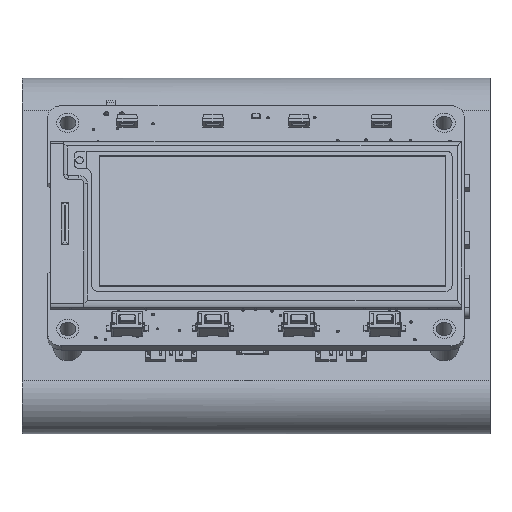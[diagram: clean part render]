
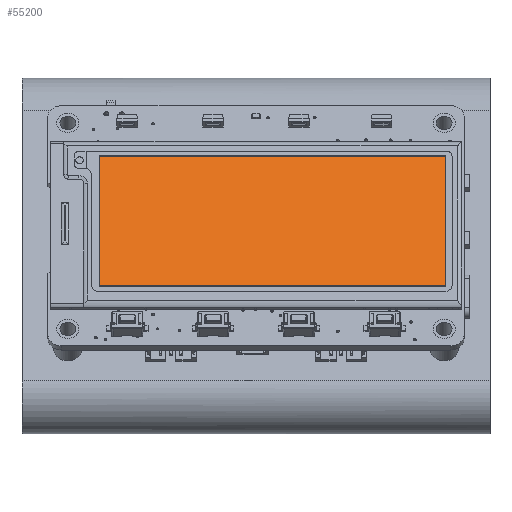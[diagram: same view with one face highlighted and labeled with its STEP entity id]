
A CAD part, left-side view. The second image highlights one B-rep face of the part: STEP entity #55200.
In plain terms, the highlighted planar face has unit normal (-0.866, 0, 0.5) as drawn and (0, 0, -1) by its records, which use the part's own axes.
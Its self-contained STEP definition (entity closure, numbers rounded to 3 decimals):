
#4783=PLANE('',#59918);
#7742=FACE_OUTER_BOUND('',#11039,.T.);
#11039=EDGE_LOOP('',(#51607,#51608,#51609,#51610));
#16963=LINE('',#92680,#22895);
#16966=LINE('',#92686,#22898);
#16969=LINE('',#92692,#22901);
#16972=LINE('',#92696,#22904);
#22895=VECTOR('',#74630,10.);
#22898=VECTOR('',#74635,10.);
#22901=VECTOR('',#74640,10.);
#22904=VECTOR('',#74645,10.);
#29124=VERTEX_POINT('',#92677);
#29125=VERTEX_POINT('',#92679);
#29127=VERTEX_POINT('',#92685);
#29129=VERTEX_POINT('',#92691);
#36615=EDGE_CURVE('',#29125,#29124,#16963,.T.);
#36618=EDGE_CURVE('',#29127,#29125,#16966,.T.);
#36621=EDGE_CURVE('',#29129,#29127,#16969,.T.);
#36624=EDGE_CURVE('',#29124,#29129,#16972,.T.);
#51607=ORIENTED_EDGE('',*,*,#36624,.T.);
#51608=ORIENTED_EDGE('',*,*,#36621,.T.);
#51609=ORIENTED_EDGE('',*,*,#36618,.T.);
#51610=ORIENTED_EDGE('',*,*,#36615,.T.);
#55200=ADVANCED_FACE('',(#7742),#4783,.T.);
#59918=AXIS2_PLACEMENT_3D('',#92697,#74646,#74647);
#74630=DIRECTION('',(0.,1.,0.));
#74635=DIRECTION('',(-1.,0.,0.));
#74640=DIRECTION('',(0.,-1.,0.));
#74645=DIRECTION('',(1.,0.,0.));
#74646=DIRECTION('center_axis',(0.,0.,-1.));
#74647=DIRECTION('ref_axis',(-1.,0.,0.));
#92677=CARTESIAN_POINT('',(3.514,41.412,-1.37));
#92679=CARTESIAN_POINT('',(3.514,12.536,-1.37));
#92680=CARTESIAN_POINT('',(3.514,12.536,-1.37));
#92685=CARTESIAN_POINT('',(70.096,12.536,-1.37));
#92686=CARTESIAN_POINT('',(70.096,12.536,-1.37));
#92691=CARTESIAN_POINT('',(70.096,41.412,-1.37));
#92692=CARTESIAN_POINT('',(70.096,41.412,-1.37));
#92696=CARTESIAN_POINT('',(3.514,41.412,-1.37));
#92697=CARTESIAN_POINT('Origin',(36.805,26.974,-1.37));
